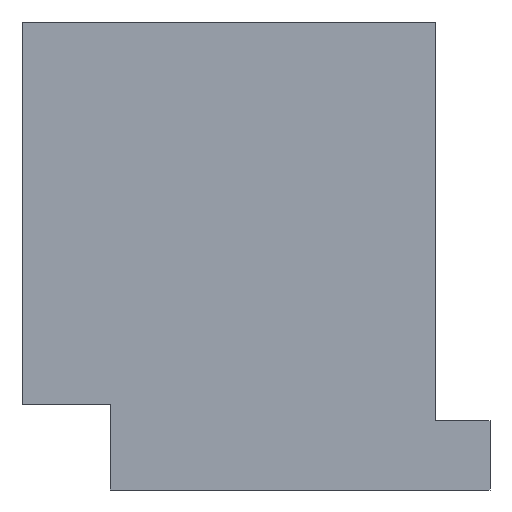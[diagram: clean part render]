
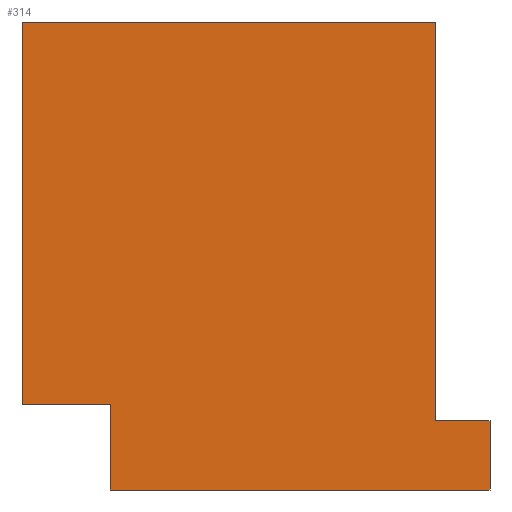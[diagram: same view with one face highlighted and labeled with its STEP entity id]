
A CAD part, left-side view. The second image highlights one B-rep face of the part: STEP entity #314.
In plain terms, the highlighted planar face has unit normal (-1, 0, 0).
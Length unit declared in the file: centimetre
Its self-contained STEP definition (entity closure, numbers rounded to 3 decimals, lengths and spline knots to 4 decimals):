
#32 = DIRECTION ( 'NONE',  ( 0., 0., 1. ) ) ;
#49 = LINE ( 'NONE', #313, #153 ) ;
#60 = DIRECTION ( 'NONE',  ( 0., -1., 0. ) ) ;
#76 = ORIENTED_EDGE ( 'NONE', *, *, #1056, .T. ) ;
#78 = CARTESIAN_POINT ( 'NONE',  ( 0., 0., 1000. ) ) ;
#111 = EDGE_CURVE ( 'NONE', #1414, #1193, #49, .T. ) ;
#143 = FACE_OUTER_BOUND ( 'NONE', #1156, .T. ) ;
#153 = VECTOR ( 'NONE', #32, 100. ) ;
#167 = CARTESIAN_POINT ( 'NONE',  ( 0., 811.2726, 182.3782 ) ) ;
#206 = LINE ( 'NONE', #78, #1474 ) ;
#229 = VECTOR ( 'NONE', #445, 100. ) ;
#291 = DIRECTION ( 'NONE',  ( 0., 1., 0. ) ) ;
#305 = VERTEX_POINT ( 'NONE', #1314 ) ;
#313 = CARTESIAN_POINT ( 'NONE',  ( 0., 811.2726, 0. ) ) ;
#314 = ADVANCED_FACE ( 'NONE', ( #143 ), #935, .F. ) ;
#318 = CARTESIAN_POINT ( 'NONE',  ( 0., 1000., 1000. ) ) ;
#332 = DIRECTION ( 'NONE',  ( 0., -1., 0. ) ) ;
#333 = CARTESIAN_POINT ( 'NONE',  ( 0., 115.4213, 148.0408 ) ) ;
#418 = EDGE_CURVE ( 'NONE', #691, #1019, #607, .T. ) ;
#426 = ORIENTED_EDGE ( 'NONE', *, *, #848, .F. ) ;
#445 = DIRECTION ( 'NONE',  ( 0., 0., -1. ) ) ;
#461 = DIRECTION ( 'NONE',  ( 0., 0., -1. ) ) ;
#508 = ORIENTED_EDGE ( 'NONE', *, *, #1622, .F. ) ;
#535 = ORIENTED_EDGE ( 'NONE', *, *, #1342, .T. ) ;
#546 = CARTESIAN_POINT ( 'NONE',  ( 0., 115.4213, 148.0408 ) ) ;
#563 = VECTOR ( 'NONE', #332, 100. ) ;
#598 = CARTESIAN_POINT ( 'NONE',  ( 0., 1000., 0. ) ) ;
#607 = LINE ( 'NONE', #1339, #1173 ) ;
#640 = ORIENTED_EDGE ( 'NONE', *, *, #1112, .F. ) ;
#691 = VERTEX_POINT ( 'NONE', #1289 ) ;
#718 = LINE ( 'NONE', #333, #1301 ) ;
#777 = ORIENTED_EDGE ( 'NONE', *, *, #111, .F. ) ;
#788 = DIRECTION ( 'NONE',  ( 1., 0., 0. ) ) ;
#796 = CARTESIAN_POINT ( 'NONE',  ( 0., 0., 148.0408 ) ) ;
#806 = CARTESIAN_POINT ( 'NONE',  ( 0., 1000., 1000. ) ) ;
#818 = LINE ( 'NONE', #318, #229 ) ;
#823 = VERTEX_POINT ( 'NONE', #796 ) ;
#825 = VECTOR ( 'NONE', #1061, 100. ) ;
#848 = EDGE_CURVE ( 'NONE', #1193, #1304, #1426, .T. ) ;
#935 = PLANE ( 'NONE',  #1221 ) ;
#943 = DIRECTION ( 'NONE',  ( 0., 0., -1. ) ) ;
#963 = CARTESIAN_POINT ( 'NONE',  ( 0., 811.2726, 0. ) ) ;
#971 = LINE ( 'NONE', #598, #563 ) ;
#995 = CARTESIAN_POINT ( 'NONE',  ( 0., 1000., 182.3782 ) ) ;
#1019 = VERTEX_POINT ( 'NONE', #1085 ) ;
#1056 = EDGE_CURVE ( 'NONE', #691, #1304, #818, .T. ) ;
#1061 = DIRECTION ( 'NONE',  ( 0., 0., 1. ) ) ;
#1070 = DIRECTION ( 'NONE',  ( 0., -1., 0. ) ) ;
#1085 = CARTESIAN_POINT ( 'NONE',  ( 0., 115.4213, 1000. ) ) ;
#1112 = EDGE_CURVE ( 'NONE', #305, #823, #718, .T. ) ;
#1122 = CARTESIAN_POINT ( 'NONE',  ( 0., 811.2726, 182.3782 ) ) ;
#1134 = ORIENTED_EDGE ( 'NONE', *, *, #418, .F. ) ;
#1156 = EDGE_LOOP ( 'NONE', ( #640, #535, #1134, #76, #426, #777, #1326, #508 ) ) ;
#1173 = VECTOR ( 'NONE', #60, 100. ) ;
#1193 = VERTEX_POINT ( 'NONE', #1122 ) ;
#1221 = AXIS2_PLACEMENT_3D ( 'NONE', #806, #788, #943 ) ;
#1250 = VECTOR ( 'NONE', #291, 100. ) ;
#1288 = LINE ( 'NONE', #546, #825 ) ;
#1289 = CARTESIAN_POINT ( 'NONE',  ( 0., 1000., 1000. ) ) ;
#1301 = VECTOR ( 'NONE', #1070, 100. ) ;
#1304 = VERTEX_POINT ( 'NONE', #995 ) ;
#1314 = CARTESIAN_POINT ( 'NONE',  ( 0., 115.4213, 148.0408 ) ) ;
#1326 = ORIENTED_EDGE ( 'NONE', *, *, #1644, .T. ) ;
#1339 = CARTESIAN_POINT ( 'NONE',  ( 0., 1000., 1000. ) ) ;
#1342 = EDGE_CURVE ( 'NONE', #305, #1019, #1288, .T. ) ;
#1414 = VERTEX_POINT ( 'NONE', #963 ) ;
#1426 = LINE ( 'NONE', #167, #1250 ) ;
#1474 = VECTOR ( 'NONE', #461, 100. ) ;
#1618 = CARTESIAN_POINT ( 'NONE',  ( 0., 0., 0. ) ) ;
#1622 = EDGE_CURVE ( 'NONE', #823, #1641, #206, .T. ) ;
#1641 = VERTEX_POINT ( 'NONE', #1618 ) ;
#1644 = EDGE_CURVE ( 'NONE', #1414, #1641, #971, .T. ) ;
